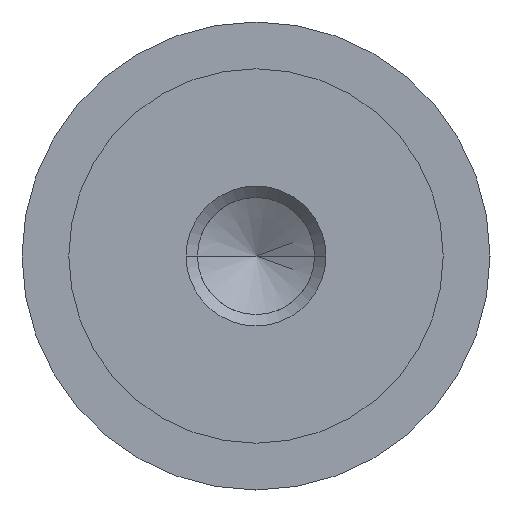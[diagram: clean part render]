
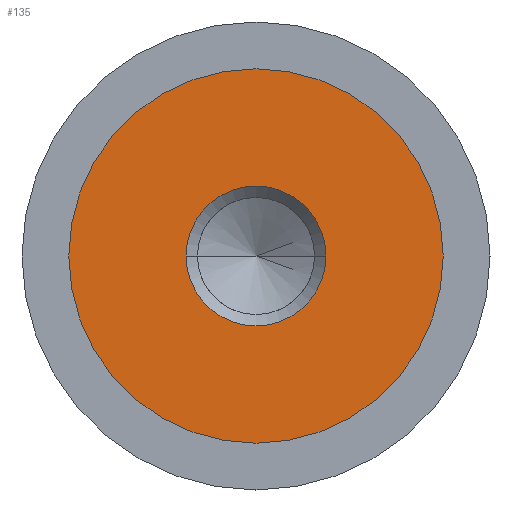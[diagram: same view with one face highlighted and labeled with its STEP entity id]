
A CAD part, left-side view. The second image highlights one B-rep face of the part: STEP entity #135.
In plain terms, the highlighted planar face has unit normal (-1, 0, 0).
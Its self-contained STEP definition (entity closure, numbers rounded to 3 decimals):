
#7 = ORIENTED_EDGE ( 'NONE', *, *, #667, .T. ) ;
#8 = EDGE_LOOP ( 'NONE', ( #365, #16 ) ) ;
#9 = CARTESIAN_POINT ( 'NONE',  ( -12.49, 0., 0. ) ) ;
#16 = ORIENTED_EDGE ( 'NONE', *, *, #460, .T. ) ;
#73 = CARTESIAN_POINT ( 'NONE',  ( -12.49, 0., -8. ) ) ;
#103 = AXIS2_PLACEMENT_3D ( 'NONE', #164, #710, #290 ) ;
#135 = ADVANCED_FACE ( 'NONE', ( #248, #677 ), #780, .F. ) ;
#164 = CARTESIAN_POINT ( 'NONE',  ( -12.49, 0., 0. ) ) ;
#178 = CIRCLE ( 'NONE', #347, 2.99 ) ;
#193 = CARTESIAN_POINT ( 'NONE',  ( -12.49, 0., 0. ) ) ;
#204 = VERTEX_POINT ( 'NONE', #377 ) ;
#214 = DIRECTION ( 'NONE',  ( 0., 0., -1. ) ) ;
#224 = EDGE_CURVE ( 'NONE', #204, #567, #564, .T. ) ;
#227 = CARTESIAN_POINT ( 'NONE',  ( -12.49, 0., 0. ) ) ;
#246 = EDGE_LOOP ( 'NONE', ( #558, #7 ) ) ;
#248 = FACE_BOUND ( 'NONE', #8, .T. ) ;
#256 = CIRCLE ( 'NONE', #103, 8. ) ;
#290 = DIRECTION ( 'NONE',  ( 0., 0., 1. ) ) ;
#295 = DIRECTION ( 'NONE',  ( 1., 0., 0. ) ) ;
#341 = DIRECTION ( 'NONE',  ( 0., 0., -1. ) ) ;
#347 = AXIS2_PLACEMENT_3D ( 'NONE', #227, #455, #341 ) ;
#353 = DIRECTION ( 'NONE',  ( 0., 0., -1. ) ) ;
#365 = ORIENTED_EDGE ( 'NONE', *, *, #676, .T. ) ;
#377 = CARTESIAN_POINT ( 'NONE',  ( -12.49, 0., 8. ) ) ;
#382 = AXIS2_PLACEMENT_3D ( 'NONE', #461, #628, #214 ) ;
#420 = DIRECTION ( 'NONE',  ( -1., 0., 0. ) ) ;
#422 = CARTESIAN_POINT ( 'NONE',  ( -12.49, 2.99, 0. ) ) ;
#452 = AXIS2_PLACEMENT_3D ( 'NONE', #193, #420, #661 ) ;
#455 = DIRECTION ( 'NONE',  ( 1., 0., 0. ) ) ;
#460 = EDGE_CURVE ( 'NONE', #463, #610, #608, .T. ) ;
#461 = CARTESIAN_POINT ( 'NONE',  ( -12.49, 8., 0. ) ) ;
#463 = VERTEX_POINT ( 'NONE', #422 ) ;
#558 = ORIENTED_EDGE ( 'NONE', *, *, #224, .T. ) ;
#564 = CIRCLE ( 'NONE', #452, 8. ) ;
#567 = VERTEX_POINT ( 'NONE', #73 ) ;
#608 = CIRCLE ( 'NONE', #657, 2.99 ) ;
#610 = VERTEX_POINT ( 'NONE', #759 ) ;
#628 = DIRECTION ( 'NONE',  ( 1., 0., 0. ) ) ;
#657 = AXIS2_PLACEMENT_3D ( 'NONE', #9, #295, #353 ) ;
#661 = DIRECTION ( 'NONE',  ( 0., 0., 1. ) ) ;
#667 = EDGE_CURVE ( 'NONE', #567, #204, #256, .T. ) ;
#676 = EDGE_CURVE ( 'NONE', #610, #463, #178, .T. ) ;
#677 = FACE_OUTER_BOUND ( 'NONE', #246, .T. ) ;
#710 = DIRECTION ( 'NONE',  ( -1., 0., 0. ) ) ;
#759 = CARTESIAN_POINT ( 'NONE',  ( -12.49, -2.99, 0. ) ) ;
#780 = PLANE ( 'NONE',  #382 ) ;
